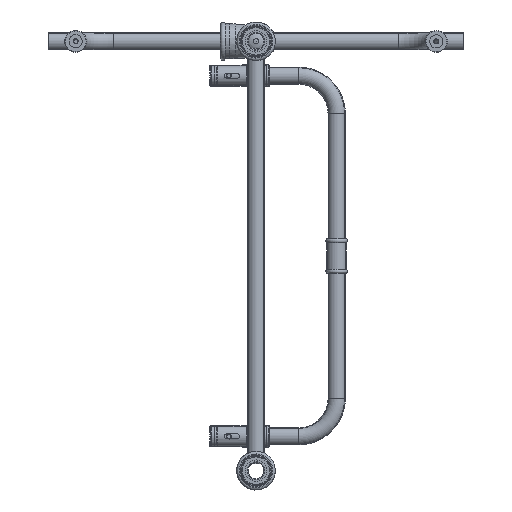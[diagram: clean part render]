
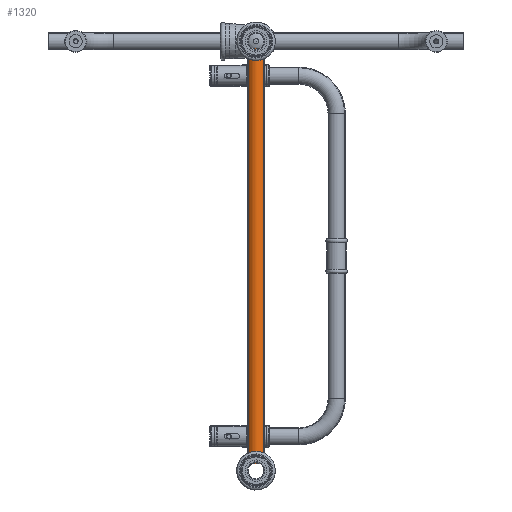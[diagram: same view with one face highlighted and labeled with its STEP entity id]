
A CAD part, front view. The second image highlights one B-rep face of the part: STEP entity #1320.
In plain terms, the highlighted cylindrical face has radius 10 mm (diameter 20 mm), a full revolution.
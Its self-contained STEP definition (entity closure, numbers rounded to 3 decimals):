
#1320 = ADVANCED_FACE( '', ( #2853, #2854 ), #2855, .T. );
#2853 = FACE_OUTER_BOUND( '', #4992, .T. );
#2854 = FACE_OUTER_BOUND( '', #4993, .T. );
#2855 = CYLINDRICAL_SURFACE( '', #4994, 10. );
#4992 = EDGE_LOOP( '', ( #7424 ) );
#4993 = EDGE_LOOP( '', ( #7425 ) );
#4994 = AXIS2_PLACEMENT_3D( '', #7426, #7427, #7428 );
#7424 = ORIENTED_EDGE( '', *, *, #9551, .T. );
#7425 = ORIENTED_EDGE( '', *, *, #9552, .F. );
#7426 = CARTESIAN_POINT( '', ( 242., 0., 0. ) );
#7427 = DIRECTION( '', ( 1., 0., 0. ) );
#7428 = DIRECTION( '', ( 0., 0., 1. ) );
#9551 = EDGE_CURVE( '', #10819, #10819, #10820, .T. );
#9552 = EDGE_CURVE( '', #10821, #10821, #10822, .T. );
#10819 = VERTEX_POINT( '', #21931 );
#10820 = CIRCLE( '', #21932, 10. );
#10821 = VERTEX_POINT( '', #21933 );
#10822 = CIRCLE( '', #21934, 10. );
#21931 = CARTESIAN_POINT( '', ( 242., 10., 0. ) );
#21932 = AXIS2_PLACEMENT_3D( '', #24687, #24688, #24689 );
#21933 = CARTESIAN_POINT( '', ( -242., 10., 0. ) );
#21934 = AXIS2_PLACEMENT_3D( '', #24690, #24691, #24692 );
#24687 = CARTESIAN_POINT( '', ( 242., 0., 0. ) );
#24688 = DIRECTION( '', ( -1., 0., 0. ) );
#24689 = DIRECTION( '', ( 0., 1., 0. ) );
#24690 = CARTESIAN_POINT( '', ( -242., 0., 0. ) );
#24691 = DIRECTION( '', ( -1., 0., 0. ) );
#24692 = DIRECTION( '', ( 0., 1., 0. ) );
